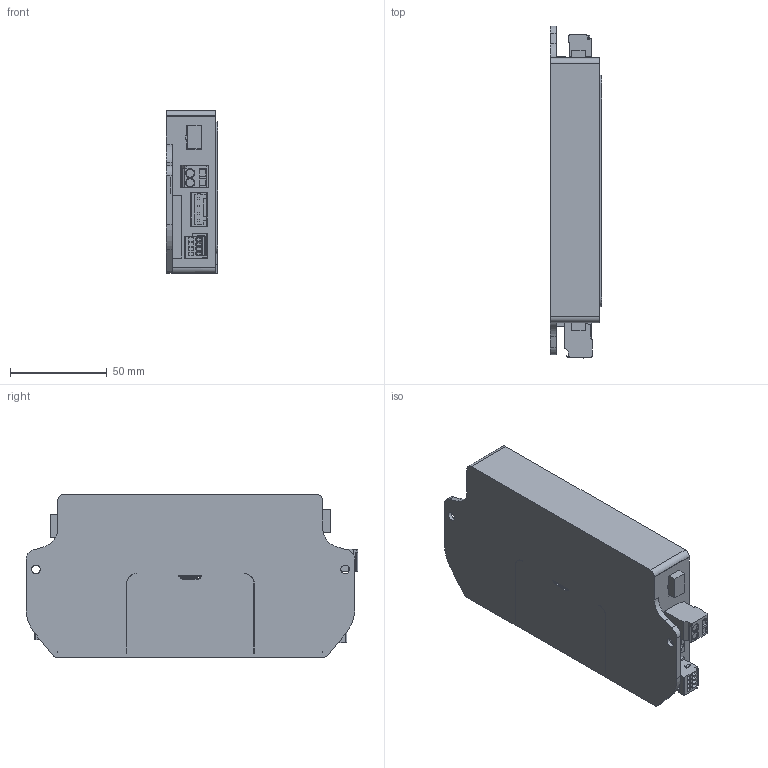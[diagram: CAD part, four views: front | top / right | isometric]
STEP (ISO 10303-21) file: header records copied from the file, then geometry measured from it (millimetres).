
FILE_DESCRIPTION(/* description */ (''),/* implementation_level */ '2;1');
FILE_NAME(/* name */ 'IB-E04F-CR-HT1.step',/* time_stamp */ '2024-10-11T10:50:36-04:00',/* author */ (''),/* organization */ (''),/* preprocessor_version */ 'ST-DEVELOPER v20',/* originating_system */ 'Autodesk Translation Framework v13.20.0.188',/* authorisation */ '');
FILE_SCHEMA (('AUTOMOTIVE_DESIGN { 1 0 10303 214 3 1 1 }'));
Length unit declared in the file: millimetre
Products named in the file (7): IB-E04F-CR-HT1; 231-302_026-000; 733-364; 734-264; 734-266; 733-104; Component1
Assembly tree (9 placements, depth 2):
  IB-E04F-CR-HT1
    231-302_026-000
    733-364  x2
    734-264
    734-266
    733-104  x2
    Component1  x2
Bounding box: 26.5 x 171.7 x 84.3 mm (x, y, z)
Volume: 315386.4 mm3; surface area: 55663.4 mm2
Topology: 10 solids, 10 shells, 1404 faces, 3855 edges, 2552 vertices
Faces by surface type: plane 1166, cylinder 202, cone 22, bspline 14
Full cylindrical faces by diameter (mm): 1.2 x8, 1.8 x2, 3.6 x2, 4.2 x2, 4.5 x2
Entity records: 34081 total; most frequent: CARTESIAN_POINT 6342, ORIENTED_EDGE 5710, DIRECTION 5198, EDGE_CURVE 2855, LINE 2486, VECTOR 2486, VERTEX_POINT 1892, AXIS2_PLACEMENT_3D 1356
